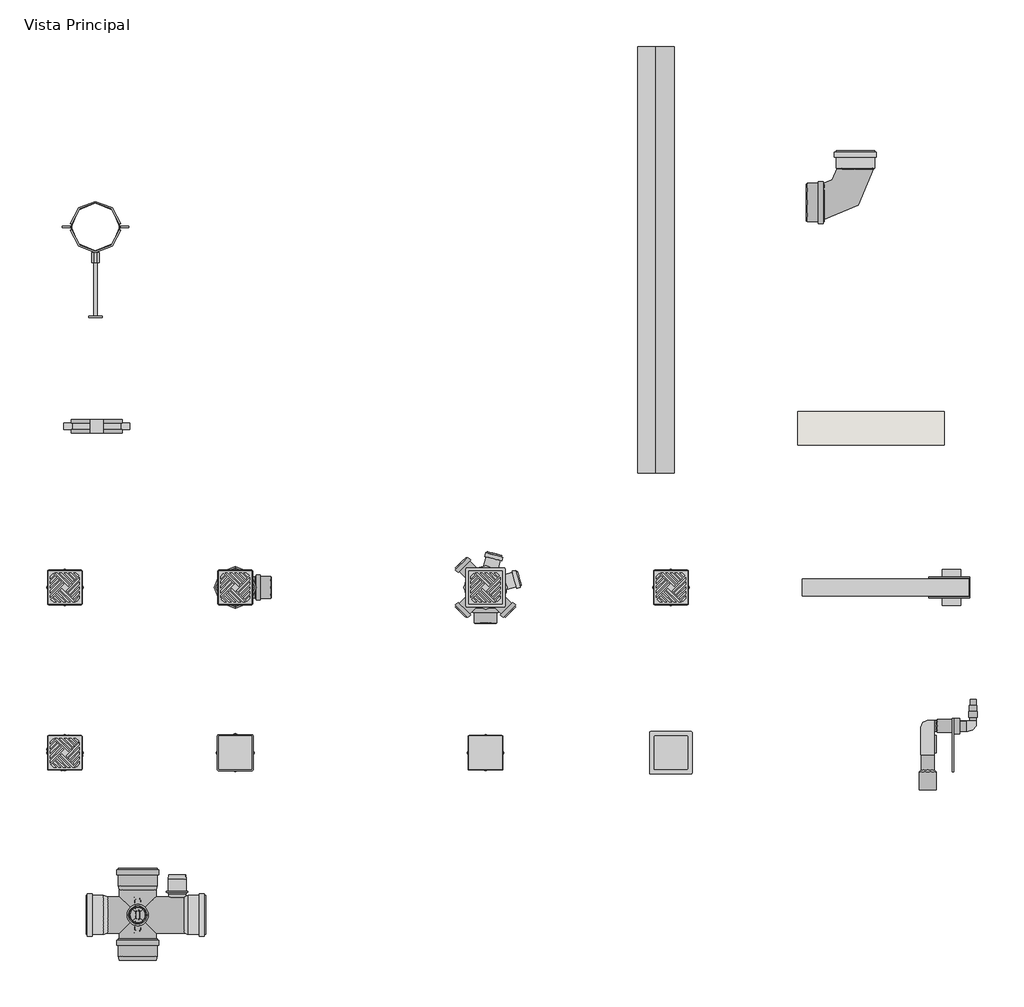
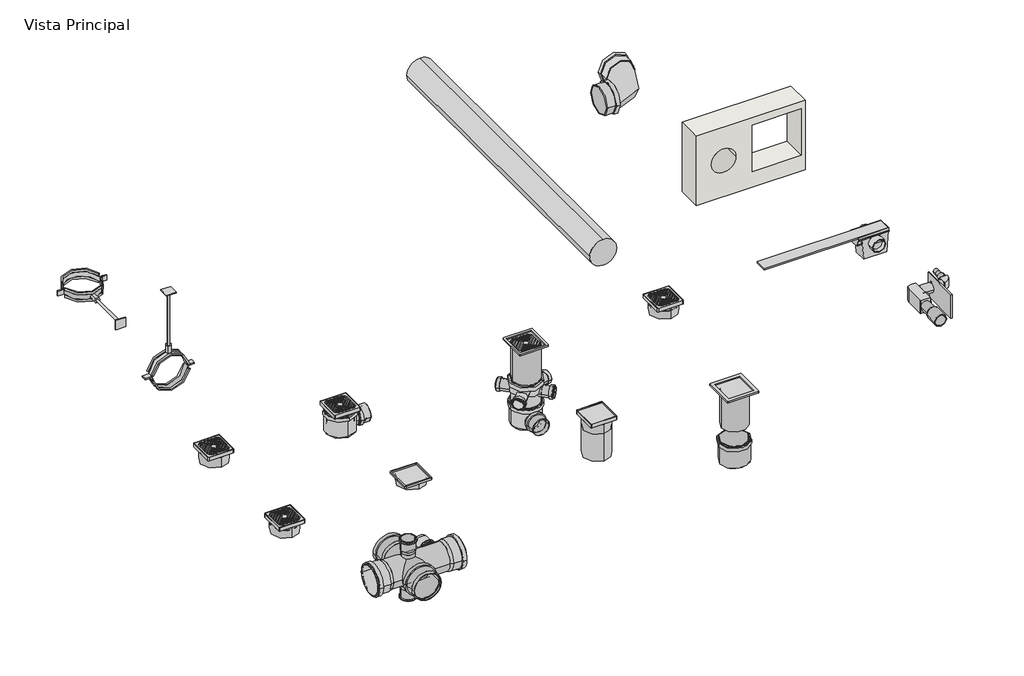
# One storey, incomplete: 28 pipe fittings, 1 pipe segment, 1 wall.
"""IFC4 building model written with IfcOpenShell, lengths in millimetres."""

from ifc_helpers import new_model, si_unit, point, frame, frame_2d, origin, place, context, project, spatial, polyline, circle_curve, trimmed, segment, composite_curve, outline, extrude, transform, mapped, element, save
from components import pipe_fitting_29e50c56, branca_807ca2a1, var_daa025f4, var_e0a8e4cc, var_324305f6, var_48ab3f22, var_c3ea8d3d, var_530cadba, var_e92ba68b, var_dc387d2e, var_1a2ba9cd, var_9df19455, var_0bd1b127, var_ac23ebad, var_d318bc15, var_98ae49b5, var_bdfa5fbf, var_2cd6268c, var_f3028fb4, var_a03eb87c, var_ad9b9af4

model = new_model("IFC4")

# Units and contexts
model_context = context("Model", 3, world=origin())
ifc_project = project(units=[si_unit("LENGTHUNIT", "METRE", prefix="MILLI")], contexts=[model_context])

# Site, building, storey
site = spatial("IfcSite", under=ifc_project)
building = spatial("IfcBuilding", under=site)
storey = spatial("IfcBuildingStorey", under=building, Name="Vista Principal", Elevation=0.0)

# Pipe fittings
placement = place(None, origin())
pipe_fitting_shape = pipe_fitting_29e50c56(model_context)
element("IfcPipeFitting", 1, ObjectType="AmancoWavin_Unionesdetubería_SilentiumPiletaGiratoria5Entradas : Giratoria 5 Entradas", at=placement, inside=storey, context=model_context, shape_type="MappedRepresentation", body=[
    mapped(pipe_fitting_shape, transform((2931.8956111, 2326.4099444, 0.0), x_axis=(1.0, 0.0, 0.0), y_axis=(0.0, 1.0, 0.0), z_axis=(0.0, 0.0, 1.0))),
])
branca_shape = branca_807ca2a1(model_context)
element("IfcPipeFitting", 2, ObjectType="AmancoWavin_Unionesdetubería_SilentiumZNoUsarDesagüeLinealTerminal : Branca", at=placement, inside=storey, context=model_context, shape_type="MappedRepresentation", body=[
    mapped(branca_shape, transform((4330.1530564, 2326.4099444, -41.8), x_axis=(0.0, 1.0, 0.0), y_axis=(-1.0, 0.0, 0.0), z_axis=(0.0, 0.0, 1.0))),
])
var_shape = var_daa025f4(model_context)
element("IfcPipeFitting", 3, ObjectType="AmancoWavin_Unionesdetubería_SilentiumDesagüeLineal : Var.", at=placement, inside=storey, context=model_context, shape_type="MappedRepresentation", body=[
    mapped(var_shape, transform((4330.1530564, 2326.4099444, 0.2), x_axis=(1.0, 0.0, 0.0), y_axis=(0.0, 1.0, 0.0), z_axis=(0.0, 0.0, 1.0))),
])
var_2_shape = var_e0a8e4cc(model_context)
element("IfcPipeFitting", 4, ObjectType="Z_Amanco PP Silentium Pileta Giratoria 5 Entradas (Nested) : Var.", at=placement, inside=storey, context=model_context, shape_type="MappedRepresentation", body=[
    mapped(var_2_shape, transform((2931.8956111, 2326.4099444, -141.3), x_axis=(0.7071067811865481, -0.707106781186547, 0.0), y_axis=(0.707106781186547, 0.7071067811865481, 0.0), z_axis=(0.0, 0.0, 1.0))),
])
var_3_shape = var_324305f6(model_context)
element("IfcPipeFitting", 5, ObjectType="AmancoWavin_Unionesdetubería_SilentiumAbrazaderaIsofonicaVertical : Var.", at=placement, inside=storey, context=model_context, shape_type="MappedRepresentation", body=[
    mapped(var_3_shape, transform((1765.4986535, 2810.1723861, 0.0), x_axis=(1.0, 0.0, 0.0), y_axis=(0.0, 1.0, 0.0), z_axis=(0.0, 0.0, 1.0))),
])
var_4_shape = var_48ab3f22(model_context)
element("IfcPipeFitting", 6, ObjectType="AmancoWavin_Unionesdetubería_SilentiumReceptáculodeBalcón : Var.", at=placement, inside=storey, context=model_context, shape_type="MappedRepresentation", body=[
    mapped(var_4_shape, transform((2180.8633967, 2326.4099444, 0.0), x_axis=(0.0, 1.0, 0.0), y_axis=(-1.0, 0.0, 0.0), z_axis=(0.0, 0.0, 1.0))),
])
var_5_shape = var_c3ea8d3d(model_context)
element("IfcPipeFitting", 7, ObjectType="AmancoWavin_ConexõesdeTubos_EsfotoSilentiumNãoUsarBarracomBase : Var.", at=placement, inside=storey, context=model_context, shape_type="MappedRepresentation", body=[
    mapped(var_5_shape, transform((1765.4986535, 2810.1723861, 97.5), x_axis=(1.0, 0.0, 0.0), y_axis=(0.0, 1.0, 0.0), z_axis=(0.0, 0.0, 1.0))),
])
var_6_shape = var_530cadba(model_context)
element("IfcPipeFitting", 8, ObjectType="AmancoWavin_Unionesdetubería_SilentiumSifonMuralConAccesoriosBlancos : Var.", at=placement, inside=storey, context=model_context, shape_type="MappedRepresentation", body=[
    mapped(var_6_shape, transform((4258.711331, 1910.5594174, 0.0), x_axis=(1.0, 0.0, 0.0), y_axis=(0.0, 1.0, 0.0), z_axis=(0.0, 0.0, 1.0))),
])
var_7_shape = var_e92ba68b(model_context)
element("IfcPipeFitting", 9, ObjectType="AmancoWavin_ConexõesdeTubos_EsfotoSilentiumNãoUsarBarracomBase : Var.", at=placement, inside=storey, context=model_context, shape_type="MappedRepresentation", body=[
    mapped(var_7_shape, transform((1761.535179, 3311.0928151, 0.0), x_axis=(-1.0, 0.0, 0.0), y_axis=(0.0, 0.0, -1.0), z_axis=(0.0, -1.0, 0.0))),
])
var_8_shape = var_dc387d2e(model_context)
element("IfcPipeFitting", 10, ObjectType="AmancoWavin_Unionesdetubería_SilentiumAbrazaderaIsofonicahorizontal : Var.", at=placement, inside=storey, context=model_context, shape_type="MappedRepresentation", body=[
    mapped(var_8_shape, transform((1761.535179, 3408.5928151, 0.0), x_axis=(1.0, 0.0, 0.0), y_axis=(0.0, 1.0, 0.0), z_axis=(0.0, 0.0, 1.0))),
])
var_9_shape = var_1a2ba9cd(model_context)
var_10_shape = var_9df19455(model_context)
element("IfcPipeFitting", 11, ObjectType="AmancoWavin_Unionesdetubería_SilentiumRamalDobleConVentilación8730110x110 : Var.", at=placement, inside=storey, context=model_context, shape_type="MappedRepresentation", body=[
    mapped(var_9_shape, transform((1888.3131585, 1343.5217515, 0.0), x_axis=(0.0, -1.0, 0.0), y_axis=(1.0, 0.0, 0.0), z_axis=(0.0, 0.0, 1.0))),
    mapped(var_10_shape, transform((1888.3131585, 1343.5217515, 0.0), x_axis=(0.0, -1.0, 0.0), y_axis=(1.0, 0.0, 0.0), z_axis=(0.0, 0.0, 1.0))),
])
var_11_shape = var_0bd1b127(model_context)
element("IfcPipeFitting", 12, ObjectType="AmancoWavin_Unionesdetubería_SilentiumZNoUsarExtension : var.", at=placement, inside=storey, context=model_context, shape_type="MappedRepresentation", body=[
    mapped(var_11_shape, transform((1669.7999673, 1830.4061339, -91.3453589), x_axis=(0.0, 0.0, -1.0), y_axis=(0.83586520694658, 0.5489347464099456, 0.0), z_axis=(0.5489347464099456, -0.83586520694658, 0.0))),
])
var_12_shape = var_ac23ebad(model_context)
element("IfcPipeFitting", 13, ObjectType="AmancoWavin_Unionesdetubería_SilentiumTapa : var.", at=placement, inside=storey, context=model_context, shape_type="MappedRepresentation", body=[
    mapped(var_12_shape, transform((3488.1283742, 1830.3073601, -390.0), x_axis=(0.0, 0.0, -1.0), y_axis=(1.0, 0.0, 0.0), z_axis=(0.0, -1.0, 0.0))),
])
var_13_shape = var_d318bc15(model_context)
element("IfcPipeFitting", 14, ObjectType="AmancoWavin_Unionesdetubería_PVCNivel1ZNoUsarMarcoPortarrejillaparaPiletadePatio : var.", at=placement, inside=storey, context=model_context, shape_type="MappedRepresentation", body=[
    mapped(var_13_shape, transform((2180.8633967, 1899.552719, -7.7), x_axis=(0.0, 1.0, 0.0), y_axis=(-1.0, 0.0, 0.0), z_axis=(0.0, 0.0, 1.0))),
])
element("IfcPipeFitting", 15, ObjectType="AmancoWavin_Unionesdetubería_SilentiumZNoUsarExtension2 : var.", at=placement, inside=storey, context=model_context, shape_type="MappedRepresentation", body=[
    mapped(var_11_shape, transform((2931.8956111, 2326.4099444, -80.4546411), x_axis=(0.0, 0.0, 1.0), y_axis=(-1.0, 0.0, 0.0), z_axis=(0.0, -1.0, 0.0))),
])
var_14_shape = var_98ae49b5(model_context)
element("IfcPipeFitting", 16, ObjectType="AmancoWavin_Unionesdetubería_PVCNivel1ZNoUsarMarcoPortarrejillaparaPiletadePatioPP : var.", at=placement, inside=storey, context=model_context, shape_type="MappedRepresentation", body=[
    mapped(var_14_shape, transform((3001.14097, 2326.4099444, 0.0), x_axis=(1.0, 0.0, 0.0), y_axis=(0.0, 1.0, 0.0), z_axis=(0.0, 0.0, 1.0))),
])
var_15_shape = var_bdfa5fbf(model_context)
element("IfcPipeFitting", 17, ObjectType="AmancoWavin_Unionesdetubería_SilentiumCurva : var.", at=placement, inside=storey, context=model_context, shape_type="MappedRepresentation", body=[
    mapped(var_15_shape, transform((4110.7136318, 3482.1184187, 0.0), x_axis=(1.0, 0.0, 0.0), y_axis=(0.0, 1.0, 0.0), z_axis=(0.0, 0.0, 1.0))),
])
var_16_shape = var_2cd6268c(model_context)
element("IfcPipeFitting", 18, ObjectType="AmancoWavin_Unionesdetubería_PVCNivel1ZNoUsarRejilla(ParaSilentium) : var.", at=placement, inside=storey, context=model_context, shape_type="MappedRepresentation", body=[
    mapped(var_16_shape, transform((1669.8648346, 1899.552719, 0.0), x_axis=(0.0, 1.0, 0.0), y_axis=(-1.0, 0.0, 0.0), z_axis=(0.0, 0.0, 1.0))),
])
element("IfcPipeFitting", 19, ObjectType="AmancoWavin_Unionesdetubería_PVCNivel1ZNoUsarRejilla(ParaSilentium) : var.", at=placement, inside=storey, context=model_context, shape_type="MappedRepresentation", body=[
    mapped(var_16_shape, transform((1669.8648346, 2395.6553033, 0.0), x_axis=(0.0, 1.0, 0.0), y_axis=(-1.0, 0.0, 0.0), z_axis=(0.0, 0.0, 1.0))),
])
element("IfcPipeFitting", 20, ObjectType="AmancoWavin_Unionesdetubería_PVCNivel1ZNoUsarRejilla(ParaSilentium) : var.", at=placement, inside=storey, context=model_context, shape_type="MappedRepresentation", body=[
    mapped(var_16_shape, transform((3488.1283742, 2395.6553033, 0.0), x_axis=(0.0, 1.0, 0.0), y_axis=(-1.0, 0.0, 0.0), z_axis=(0.0, 0.0, 1.0))),
])
var_17_shape = var_f3028fb4(model_context)
element("IfcPipeFitting", 21, ObjectType="AmancoWavin_Unionesdetubería_PVCNivel1ZNoUsarMarcoPortarrejilla(Para Silentium) : var.", at=placement, inside=storey, context=model_context, shape_type="MappedRepresentation", body=[
    mapped(var_17_shape, transform((1669.8648346, 1899.552719, -14.8), x_axis=(0.0, 1.0, 0.0), y_axis=(-1.0, 0.0, 0.0), z_axis=(0.0, 0.0, 1.0))),
])
element("IfcPipeFitting", 22, ObjectType="AmancoWavin_Unionesdetubería_PVCNivel1ZNoUsarMarcoPortarrejilla(Para Silentium) : var.", at=placement, inside=storey, context=model_context, shape_type="MappedRepresentation", body=[
    mapped(var_17_shape, transform((1669.8648346, 2395.6553033, -14.8), x_axis=(0.0, 1.0, 0.0), y_axis=(-1.0, 0.0, 0.0), z_axis=(0.0, 0.0, 1.0))),
])
element("IfcPipeFitting", 23, ObjectType="AmancoWavin_Unionesdetubería_PVCNivel1ZNoUsarMarcoPortarrejilla(Para Silentium) : var.", at=placement, inside=storey, context=model_context, shape_type="MappedRepresentation", body=[
    mapped(var_17_shape, transform((3488.1283742, 2395.6553033, -14.8), x_axis=(0.0, 1.0, 0.0), y_axis=(-1.0, 0.0, 0.0), z_axis=(0.0, 0.0, 1.0))),
])
element("IfcPipeFitting", 24, ObjectType="AmancoWavin_Unionesdetubería_PVCNivel1ZNoUsarMarcoPortarrejillaparaPiletadePatio : var.", at=placement, inside=storey, context=model_context, shape_type="MappedRepresentation", body=[
    mapped(var_17_shape, transform((2180.8633967, 2395.6553033, -14.8), x_axis=(0.0, 1.0, 0.0), y_axis=(-1.0, 0.0, 0.0), z_axis=(0.0, 0.0, 1.0))),
])
element("IfcPipeFitting", 25, ObjectType="AmancoWavin_Unionesdetubería_PVCNivel1ZNoUsarMarcoPortarrejillaparaPiletadePatio : var.", at=placement, inside=storey, context=model_context, shape_type="MappedRepresentation", body=[
    mapped(var_17_shape, transform((2931.8956111, 1899.552719, -14.8), x_axis=(0.0, 1.0, 0.0), y_axis=(-1.0, 0.0, 0.0), z_axis=(0.0, 0.0, 1.0))),
])
element("IfcPipeFitting", 26, ObjectType="AmancoWavin_Unionesdetubería_SilentiumZNoUsarExtension : var.", at=placement, inside=storey, context=model_context, shape_type="MappedRepresentation", body=[
    mapped(var_11_shape, transform((3488.2030596, 2326.3352601, -91.3453589), x_axis=(0.0, 0.0, -1.0), y_axis=(0.7071014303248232, 0.7071121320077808, 0.0), z_axis=(0.7071121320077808, -0.7071014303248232, 0.0))),
])
var_18_shape = var_a03eb87c(model_context)
element("IfcPipeFitting", 27, ObjectType="AmancoWavin_Unionesdetubería_SilentiumZNoUsarExtension : var.", at=placement, inside=storey, context=model_context, shape_type="MappedRepresentation", body=[
    mapped(var_18_shape, transform((2931.8956111, 1830.3073601, -100.9546411), x_axis=(0.0, 0.0, 1.0), y_axis=(0.0, -1.0, 0.0), z_axis=(1.0, 0.0, 0.0))),
])
var_19_shape = var_ad9b9af4(model_context)
element("IfcPipeFitting", 28, ObjectType="AmancoWavin_Unionesdetubería_SilentiumNoUsarMarcoPortarrejillaparaBocaDeAccesoCocina : var.", at=placement, inside=storey, context=model_context, shape_type="MappedRepresentation", body=[
    mapped(var_19_shape, transform((3557.373733, 1830.3073601, -91.25), x_axis=(1.0, 0.0, 0.0), y_axis=(0.0, 1.0, 0.0), z_axis=(0.0, 0.0, 1.0))),
])

# Pipe segment
element("IfcPipeSegment", 29, ObjectType="AmancoWavin_Tuberías_TuboSilentium", at=placement, inside=storey, context=model_context, shape_type="SweptSolid", body=[
    extrude(outline(composite_curve([segment(trimmed(circle_curve(frame_2d((0.0, 3443.1283742)), 55.0), [point((0.0, 3498.1283742))], [point((55.0, 3443.1283742))], False, "CARTESIAN"), True, "CONTINUOUS"), segment(trimmed(circle_curve(frame_2d((0.0, 3443.1283742)), 55.0), [point((55.0, 3443.1283742))], [point((0.0, 3388.1283742))], False, "CARTESIAN"), True, "CONTINUOUS"), segment(trimmed(circle_curve(frame_2d((0.0, 3443.1283742)), 55.0), [point((0.0, 3388.1283742))], [point((-55.0, 3443.1283742))], False, "CARTESIAN"), True, "CONTINUOUS"), segment(trimmed(circle_curve(frame_2d((0.0, 3443.1283742)), 55.0), [point((-55.0, 3443.1283742))], [point((0.0, 3498.1283742))], False, "CARTESIAN"), True, "CONTINUOUS")], self_intersect=False)), frame((0.0, 2670.2380933, 0.0), z_axis=(0.0, 1.0, 0.0), x_axis=(0.0, 0.0, 1.0)), (0.0, 0.0, 1.0), 1280.0),
])

# Wall
element("IfcWall", 30, ObjectType="Wall 1", at=placement, inside=storey, context=model_context, shape_type="SweptSolid", body=[
    extrude(outline(polyline([(0.0, 3868.6302671), (0.0, 4308.6302671), (296.5968372, 4308.6302671), (296.5968372, 3868.6302671), (0.0, 3868.6302671)]), holes=[composite_curve([segment(trimmed(circle_curve(frame_2d((154.4282969, 3978.6302671)), 50.0), [point((154.4282969, 4028.6302671))], [point((154.4282969, 3928.6302671))], True, "CARTESIAN"), True, "CONTINUOUS"), segment(trimmed(circle_curve(frame_2d((154.4282969, 3978.6302671)), 50.0), [point((154.4282969, 3928.6302671))], [point((154.4282969, 4028.6302671))], True, "CARTESIAN"), True, "CONTINUOUS")], self_intersect=False), polyline([(66.4896004, 4293.6302671), (66.4896004, 4093.6302671), (266.4896004, 4093.6302671), (266.4896004, 4293.6302671), (66.4896004, 4293.6302671)])]), frame((0.0, 2753.7560265, 0.0), z_axis=(0.0, 1.0, 0.0), x_axis=(0.0, 0.0, 1.0)), (0.0, 0.0, 1.0), 100.0),
])

save(model, "model.ifc")
